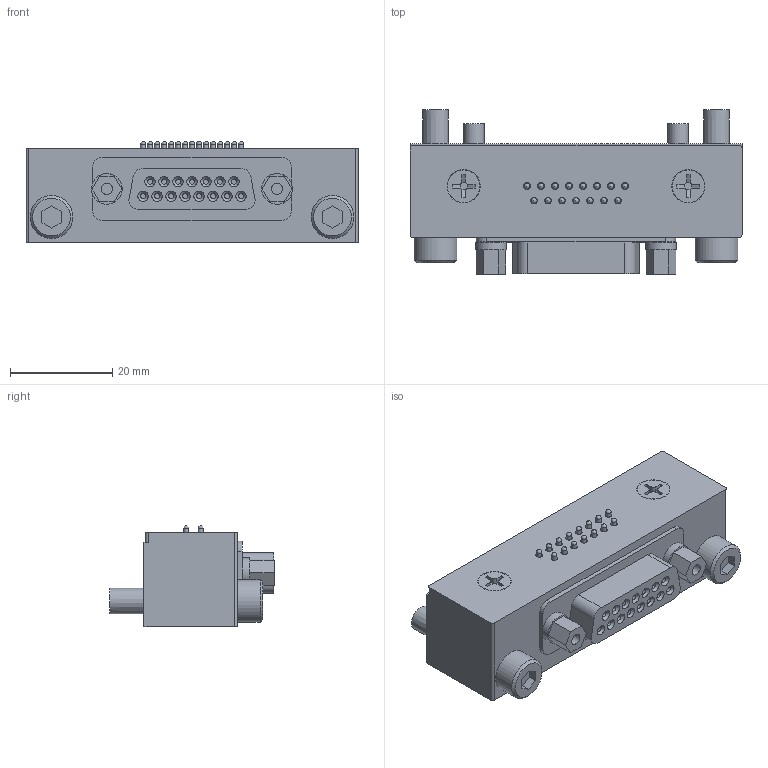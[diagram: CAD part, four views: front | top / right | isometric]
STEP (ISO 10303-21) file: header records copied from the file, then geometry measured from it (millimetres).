
FILE_DESCRIPTION(('STEP AP214'),'1');
FILE_NAME('KHB-45_300HS-D315C_ver1.stp','2026-04-27T07:46:45',(' '),(' '),'Spatial InterOp 3D',' ',' ');
FILE_SCHEMA(('AUTOMOTIVE_DESIGN { 1 0 10303 214 1 1 1 1 }'));
Length unit declared in the file: millimetre
Products named in the file (3): KHB-45~300HS-D315C_ver1; パーツ1
Assembly tree (2 placements, depth 2):
  KHB-45~300HS-D315C_ver1
    パーツ1
    パーツ1
Bounding box: 65 x 32.2 x 19.8 mm (x, y, z)
Volume: 24405.2 mm3; surface area: 9097.3 mm2
Topology: 2 solids, 7 shells, 310 faces, 719 edges, 485 vertices
Faces by surface type: plane 176, cylinder 94, cone 25, sphere 15
Full cylindrical faces by diameter (mm): 1.02 x30, 1.3 x15, 2.15 x2, 2.25 x2, 2.5 x2, 3.1 x2, 3.2 x2, 3.5 x2, 4 x3, 4.7 x2, 5 x4, 5.2 x2, 6 x2, 8.385 x2
Entity records: 10022 total; most frequent: DIRECTION 1362, CARTESIAN_POINT 1225, ORIENTED_EDGE 1034, AXIS2_PLACEMENT_3D 532, EDGE_CURVE 517, EDGE_LOOP 484, VERTEX_POINT 395, FACE_OUTER_BOUND 382
